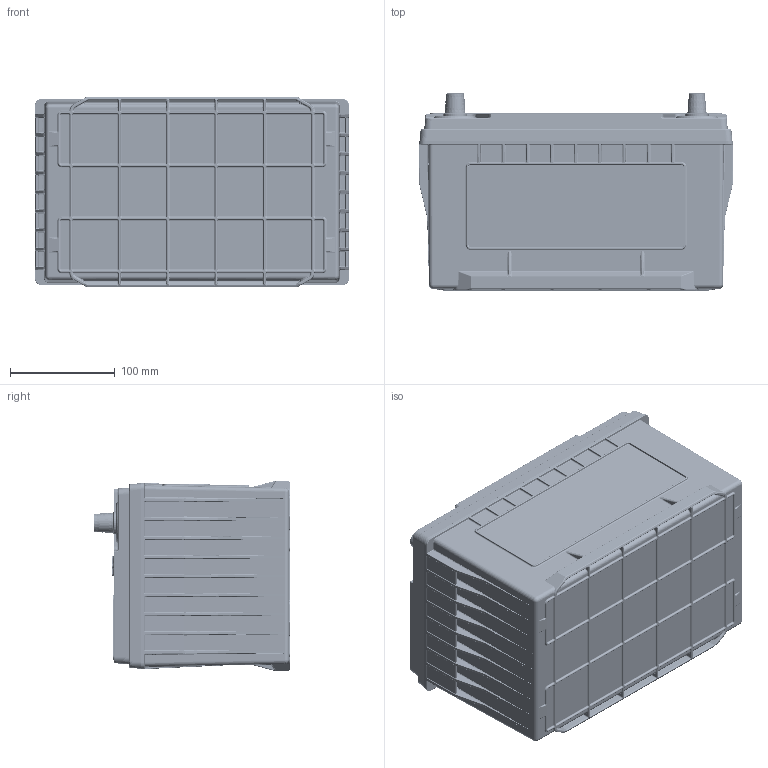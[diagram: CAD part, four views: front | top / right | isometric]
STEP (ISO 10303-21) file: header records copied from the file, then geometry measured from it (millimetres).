
FILE_DESCRIPTION (( 'STEP AP203' ), '1' );
FILE_NAME ('ODX-AGM65.STEP', '2024-04-15T14:35:38', ( '' ), ( '' ), 'SwSTEP 2.0', 'SolidWorks 2022', '' );
FILE_SCHEMA (( 'CONFIG_CONTROL_DESIGN' ));
Products named in the file (1): ODX-AGM65
Bounding box: 300.37 x 188.11 x 182.45 mm (x, y, z)
Volume: 1378543.1 mm3; surface area: 1068035.6 mm2
Topology: 15 solids, 15 shells, 6930 faces, 17055 edges, 9861 vertices
Faces by surface type: cylinder 2603, plane 1845, bspline 1349, torus 509, sphere 380, cone 244
Full cylindrical faces by diameter (mm): 3.175 x32, 3.81 x1, 6.35 x2, 7.62 x1, 8.001 x6, 10.8 x2, 12 x36, 19.05 x2, 20.218 x2, 22.225 x2, 22.86 x2, 24.282 x4, 31.344 x2, 31.648 x4
Entity records: 244930 total; most frequent: CARTESIAN_POINT 99053, ORIENTED_EDGE 32580, DIRECTION 28315, EDGE_CURVE 16290, AXIS2_PLACEMENT_3D 10576, VERTEX_POINT 9708, EDGE_LOOP 7280, LINE 7163
